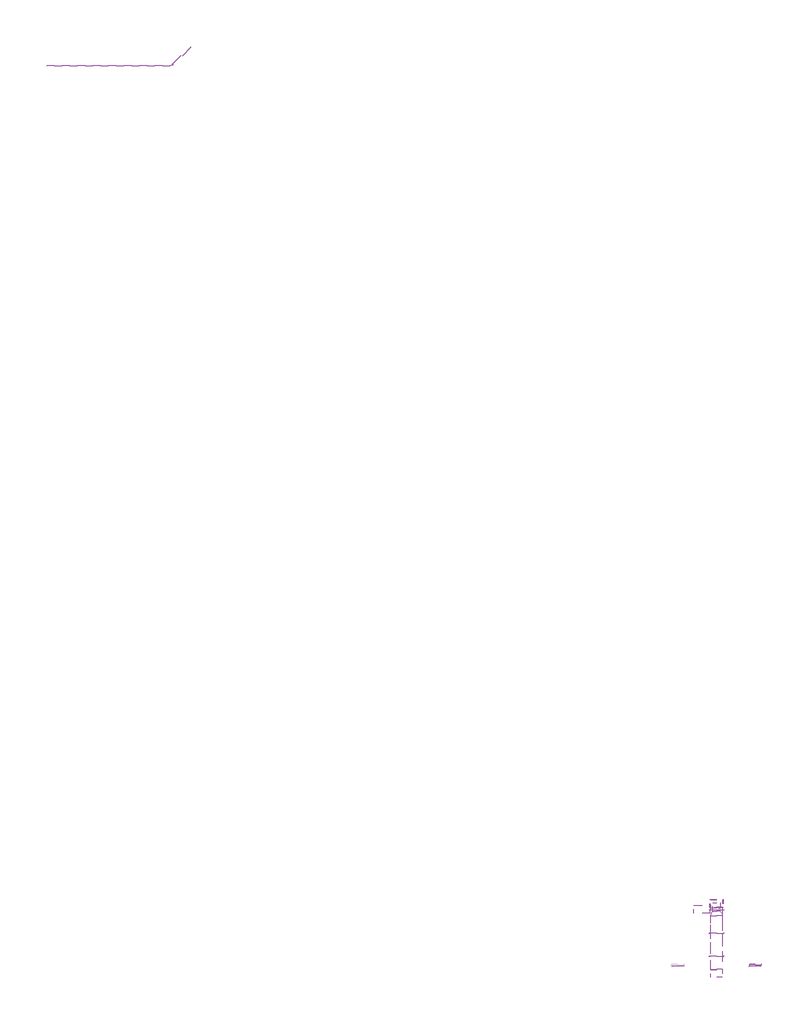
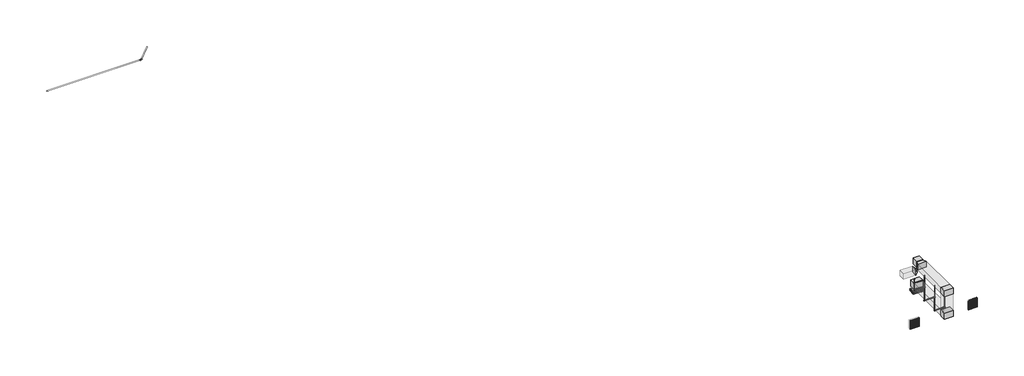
# One storey, part 2 of 2: 51 cable carrier fittings, 8 members, 6 duct fittings, 5 duct segments, 3 dampers, 3 plates, 2 pipe segments, 1 pipe fitting.
"""IFC4 building model written with IfcOpenShell, lengths in millimetres."""

from ifc_helpers import new_model, si_unit, point, frame, frame_2d, origin, place, context, project, spatial, polyline, circle_curve, trimmed, segment, composite_curve, outline, extrude, transform, mapped, element, save
from components import cable_carrier_fitting_5147b0eb, cable_carrier_fitting_557589b3, cable_carrier_fitting_4bd9d3f5, cable_carrier_fitting_428843c3, cable_carrier_fitting_73e02768, damper_1e25a3dc, damper_114d0c41, duct_fitting_aacfcd7f, duct_fitting_35186f20, duct_fitting_47d387f7, duct_fitting_39c6a66e, rectangular_mullion_0fb44773, rectangular_mullion_1x4cm_e9e767ec, rectangular_mullion_1x4cm_b486f322, pipe_fitting_fc837bde, painel_do_sistema_vazio_vazio_02596d65, painel_do_sistema_vazio_vazio_9b44381c

model = new_model("IFC4")

# Units and contexts
model_context = context("Model", 3, world=origin())
ifc_project = project(units=[si_unit("LENGTHUNIT", "METRE", prefix="MILLI")], contexts=[model_context])

# Site, building, storey
site = spatial("IfcSite", under=ifc_project)
building = spatial("IfcBuilding", under=site)
storey = spatial("IfcBuildingStorey", under=building, Name="Térreo", Elevation=52050.0)

# Cable carrier fittings
placement = place(None, origin())
cable_carrier_fitting_shape = cable_carrier_fitting_5147b0eb(model_context)
element("IfcCableCarrierFitting", 1, ObjectType="x. Perfilado38_para suportes : Perfilado38_para suportes", at=placement, inside=storey, context=model_context, shape_type="MappedRepresentation", body=[
    mapped(cable_carrier_fitting_shape, transform((16105.5706235, -20438.3156342, 54915.6939964), x_axis=(-1.0000000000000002, 0.0, 0.0), y_axis=(0.0, -1.0000000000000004, 0.0), z_axis=(0.0, 0.0, 1.0000000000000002))),
])
element("IfcCableCarrierFitting", 2, ObjectType="x. Perfilado38_para suportes : Perfilado38_para suportes", at=placement, inside=storey, context=model_context, shape_type="MappedRepresentation", body=[
    mapped(cable_carrier_fitting_shape, transform((16105.5706235, -21638.3156342, 54915.6939964), x_axis=(-1.0000000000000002, 0.0, 0.0), y_axis=(0.0, -1.0000000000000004, 0.0), z_axis=(0.0, 0.0, 1.0000000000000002))),
])
element("IfcCableCarrierFitting", 3, ObjectType="x. Perfilado38_para suportes : Perfilado38_para suportes", at=placement, inside=storey, context=model_context, shape_type="MappedRepresentation", body=[
    mapped(cable_carrier_fitting_shape, transform((16105.5706235, -22838.3156342, 54915.6939964), x_axis=(-1.0000000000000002, 0.0, 0.0), y_axis=(0.0, -1.0000000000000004, 0.0), z_axis=(0.0, 0.0, 1.0000000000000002))),
])
cable_carrier_fitting_2_shape = cable_carrier_fitting_557589b3(model_context)
element("IfcCableCarrierFitting", 4, ObjectType="x. Porca Sextavada Eletrica : Porca sextavada Eletrica", at=placement, inside=storey, context=model_context, shape_type="MappedRepresentation", body=[
    mapped(cable_carrier_fitting_2_shape, transform((16455.5706235, -20438.3156342, 54874.6939964), x_axis=(0.0, -1.0, 0.0), y_axis=(-1.0, 0.0, 0.0), z_axis=(0.0, 0.0, -1.0))),
])
element("IfcCableCarrierFitting", 5, ObjectType="x. Porca Sextavada Eletrica : Porca sextavada Eletrica", at=placement, inside=storey, context=model_context, shape_type="MappedRepresentation", body=[
    mapped(cable_carrier_fitting_2_shape, transform((15755.5706235, -20438.3156342, 54874.6939964), x_axis=(0.0, -1.0, 0.0), y_axis=(-1.0, 0.0, 0.0), z_axis=(0.0, 0.0, -1.0))),
])
element("IfcCableCarrierFitting", 6, ObjectType="x. Porca Sextavada Eletrica : Porca sextavada Eletrica", at=placement, inside=storey, context=model_context, shape_type="MappedRepresentation", body=[
    mapped(cable_carrier_fitting_2_shape, transform((16455.5706235, -20438.3156342, 54868.1939964), x_axis=(0.0, -1.0, 0.0), y_axis=(-1.0, 0.0, 0.0), z_axis=(0.0, 0.0, -1.0))),
])
element("IfcCableCarrierFitting", 7, ObjectType="x. Porca Sextavada Eletrica : Porca sextavada Eletrica", at=placement, inside=storey, context=model_context, shape_type="MappedRepresentation", body=[
    mapped(cable_carrier_fitting_2_shape, transform((15755.5706235, -20438.3156342, 54868.1939964), x_axis=(0.0, -1.0, 0.0), y_axis=(-1.0, 0.0, 0.0), z_axis=(0.0, 0.0, -1.0))),
])
element("IfcCableCarrierFitting", 8, ObjectType="x. Porca Sextavada Eletrica : Porca sextavada Eletrica", at=placement, inside=storey, context=model_context, shape_type="MappedRepresentation", body=[
    mapped(cable_carrier_fitting_2_shape, transform((16455.5706235, -20438.3156342, 55719.6939964), x_axis=(-1.0, 0.0, 0.0), y_axis=(0.0, 1.0, 0.0), z_axis=(0.0, 0.0, -1.0))),
])
element("IfcCableCarrierFitting", 9, ObjectType="x. Porca Sextavada Eletrica : Porca sextavada Eletrica", at=placement, inside=storey, context=model_context, shape_type="MappedRepresentation", body=[
    mapped(cable_carrier_fitting_2_shape, transform((16455.5706235, -20438.3156342, 55713.1939964), x_axis=(-1.0, 0.0, 0.0), y_axis=(0.0, 1.0, 0.0), z_axis=(0.0, 0.0, -1.0))),
])
element("IfcCableCarrierFitting", 10, ObjectType="x. Porca Sextavada Eletrica : Porca sextavada Eletrica", at=placement, inside=storey, context=model_context, shape_type="MappedRepresentation", body=[
    mapped(cable_carrier_fitting_2_shape, transform((15755.5706235, -20438.3156342, 55719.6939964), x_axis=(-1.0, 0.0, 0.0), y_axis=(0.0, 1.0, 0.0), z_axis=(0.0, 0.0, -1.0))),
])
element("IfcCableCarrierFitting", 11, ObjectType="x. Porca Sextavada Eletrica : Porca sextavada Eletrica", at=placement, inside=storey, context=model_context, shape_type="MappedRepresentation", body=[
    mapped(cable_carrier_fitting_2_shape, transform((15755.5706235, -20438.3156342, 55713.1939964), x_axis=(-1.0, 0.0, 0.0), y_axis=(0.0, 1.0, 0.0), z_axis=(0.0, 0.0, -1.0))),
])
element("IfcCableCarrierFitting", 12, ObjectType="x. Porca Sextavada Eletrica : Porca sextavada Eletrica", at=placement, inside=storey, context=model_context, shape_type="MappedRepresentation", body=[
    mapped(cable_carrier_fitting_2_shape, transform((16455.5706235, -21638.3156342, 54874.6939964), x_axis=(0.0, -1.0, 0.0), y_axis=(-1.0, 0.0, 0.0), z_axis=(0.0, 0.0, -1.0))),
])
element("IfcCableCarrierFitting", 13, ObjectType="x. Porca Sextavada Eletrica : Porca sextavada Eletrica", at=placement, inside=storey, context=model_context, shape_type="MappedRepresentation", body=[
    mapped(cable_carrier_fitting_2_shape, transform((15755.5706235, -21638.3156342, 54874.6939964), x_axis=(0.0, -1.0, 0.0), y_axis=(-1.0, 0.0, 0.0), z_axis=(0.0, 0.0, -1.0))),
])
element("IfcCableCarrierFitting", 14, ObjectType="x. Porca Sextavada Eletrica : Porca sextavada Eletrica", at=placement, inside=storey, context=model_context, shape_type="MappedRepresentation", body=[
    mapped(cable_carrier_fitting_2_shape, transform((16455.5706235, -21638.3156342, 54868.1939964), x_axis=(0.0, -1.0, 0.0), y_axis=(-1.0, 0.0, 0.0), z_axis=(0.0, 0.0, -1.0))),
])
element("IfcCableCarrierFitting", 15, ObjectType="x. Porca Sextavada Eletrica : Porca sextavada Eletrica", at=placement, inside=storey, context=model_context, shape_type="MappedRepresentation", body=[
    mapped(cable_carrier_fitting_2_shape, transform((15755.5706235, -21638.3156342, 54868.1939964), x_axis=(0.0, -1.0, 0.0), y_axis=(-1.0, 0.0, 0.0), z_axis=(0.0, 0.0, -1.0))),
])
element("IfcCableCarrierFitting", 16, ObjectType="x. Porca Sextavada Eletrica : Porca sextavada Eletrica", at=placement, inside=storey, context=model_context, shape_type="MappedRepresentation", body=[
    mapped(cable_carrier_fitting_2_shape, transform((16455.5706235, -21638.3156342, 55719.6939964), x_axis=(-1.0, 0.0, 0.0), y_axis=(0.0, 1.0, 0.0), z_axis=(0.0, 0.0, -1.0))),
])
element("IfcCableCarrierFitting", 17, ObjectType="x. Porca Sextavada Eletrica : Porca sextavada Eletrica", at=placement, inside=storey, context=model_context, shape_type="MappedRepresentation", body=[
    mapped(cable_carrier_fitting_2_shape, transform((16455.5706235, -21638.3156342, 55713.1939964), x_axis=(-1.0, 0.0, 0.0), y_axis=(0.0, 1.0, 0.0), z_axis=(0.0, 0.0, -1.0))),
])
element("IfcCableCarrierFitting", 18, ObjectType="x. Porca Sextavada Eletrica : Porca sextavada Eletrica", at=placement, inside=storey, context=model_context, shape_type="MappedRepresentation", body=[
    mapped(cable_carrier_fitting_2_shape, transform((15755.5706235, -21638.3156342, 55719.6939964), x_axis=(-1.0, 0.0, 0.0), y_axis=(0.0, 1.0, 0.0), z_axis=(0.0, 0.0, -1.0))),
])
element("IfcCableCarrierFitting", 19, ObjectType="x. Porca Sextavada Eletrica : Porca sextavada Eletrica", at=placement, inside=storey, context=model_context, shape_type="MappedRepresentation", body=[
    mapped(cable_carrier_fitting_2_shape, transform((15755.5706235, -21638.3156342, 55713.1939964), x_axis=(-1.0, 0.0, 0.0), y_axis=(0.0, 1.0, 0.0), z_axis=(0.0, 0.0, -1.0))),
])
element("IfcCableCarrierFitting", 20, ObjectType="x. Porca Sextavada Eletrica : Porca sextavada Eletrica", at=placement, inside=storey, context=model_context, shape_type="MappedRepresentation", body=[
    mapped(cable_carrier_fitting_2_shape, transform((16455.5706235, -22838.3156342, 54874.6939964), x_axis=(0.0, -1.0, 0.0), y_axis=(-1.0, 0.0, 0.0), z_axis=(0.0, 0.0, -1.0))),
])
element("IfcCableCarrierFitting", 21, ObjectType="x. Porca Sextavada Eletrica : Porca sextavada Eletrica", at=placement, inside=storey, context=model_context, shape_type="MappedRepresentation", body=[
    mapped(cable_carrier_fitting_2_shape, transform((15755.5706235, -22838.3156342, 54874.6939964), x_axis=(0.0, -1.0, 0.0), y_axis=(-1.0, 0.0, 0.0), z_axis=(0.0, 0.0, -1.0))),
])
element("IfcCableCarrierFitting", 22, ObjectType="x. Porca Sextavada Eletrica : Porca sextavada Eletrica", at=placement, inside=storey, context=model_context, shape_type="MappedRepresentation", body=[
    mapped(cable_carrier_fitting_2_shape, transform((16455.5706235, -22838.3156342, 54868.1939964), x_axis=(0.0, -1.0, 0.0), y_axis=(-1.0, 0.0, 0.0), z_axis=(0.0, 0.0, -1.0))),
])
element("IfcCableCarrierFitting", 23, ObjectType="x. Porca Sextavada Eletrica : Porca sextavada Eletrica", at=placement, inside=storey, context=model_context, shape_type="MappedRepresentation", body=[
    mapped(cable_carrier_fitting_2_shape, transform((15755.5706235, -22838.3156342, 54868.1939964), x_axis=(0.0, -1.0, 0.0), y_axis=(-1.0, 0.0, 0.0), z_axis=(0.0, 0.0, -1.0))),
])
element("IfcCableCarrierFitting", 24, ObjectType="x. Porca Sextavada Eletrica : Porca sextavada Eletrica", at=placement, inside=storey, context=model_context, shape_type="MappedRepresentation", body=[
    mapped(cable_carrier_fitting_2_shape, transform((16455.5706235, -22838.3156342, 55719.6939964), x_axis=(-1.0, 0.0, 0.0), y_axis=(0.0, 1.0, 0.0), z_axis=(0.0, 0.0, -1.0))),
])
element("IfcCableCarrierFitting", 25, ObjectType="x. Porca Sextavada Eletrica : Porca sextavada Eletrica", at=placement, inside=storey, context=model_context, shape_type="MappedRepresentation", body=[
    mapped(cable_carrier_fitting_2_shape, transform((16455.5706235, -22838.3156342, 55713.1939964), x_axis=(-1.0, 0.0, 0.0), y_axis=(0.0, 1.0, 0.0), z_axis=(0.0, 0.0, -1.0))),
])
element("IfcCableCarrierFitting", 26, ObjectType="x. Porca Sextavada Eletrica : Porca sextavada Eletrica", at=placement, inside=storey, context=model_context, shape_type="MappedRepresentation", body=[
    mapped(cable_carrier_fitting_2_shape, transform((15755.5706235, -22838.3156342, 55719.6939964), x_axis=(-1.0, 0.0, 0.0), y_axis=(0.0, 1.0, 0.0), z_axis=(0.0, 0.0, -1.0))),
])
element("IfcCableCarrierFitting", 27, ObjectType="x. Porca Sextavada Eletrica : Porca sextavada Eletrica", at=placement, inside=storey, context=model_context, shape_type="MappedRepresentation", body=[
    mapped(cable_carrier_fitting_2_shape, transform((15755.5706235, -22838.3156342, 55713.1939964), x_axis=(-1.0, 0.0, 0.0), y_axis=(0.0, 1.0, 0.0), z_axis=(0.0, 0.0, -1.0))),
])
cable_carrier_fitting_3_shape = cable_carrier_fitting_4bd9d3f5(model_context)
element("IfcCableCarrierFitting", 28, ObjectType="x. Fixaçoes Eletricas_Chumbador de Expansão : Chumbador de Expansão", at=placement, inside=storey, context=model_context, shape_type="MappedRepresentation", body=[
    mapped(cable_carrier_fitting_3_shape, transform((16455.5706235, -20438.3156342, 55720.6939964), x_axis=(0.0, -1.0, 0.0), y_axis=(-1.0, 0.0, 0.0), z_axis=(0.0, 0.0, -1.0))),
])
element("IfcCableCarrierFitting", 29, ObjectType="x. Fixaçoes Eletricas_Chumbador de Expansão : Chumbador de Expansão", at=placement, inside=storey, context=model_context, shape_type="MappedRepresentation", body=[
    mapped(cable_carrier_fitting_3_shape, transform((15755.5706235, -20438.3156342, 55720.6939964), x_axis=(0.0, -1.0, 0.0), y_axis=(-1.0, 0.0, 0.0), z_axis=(0.0, 0.0, -1.0))),
])
element("IfcCableCarrierFitting", 30, ObjectType="x. Fixaçoes Eletricas_Chumbador de Expansão : Chumbador de Expansão", at=placement, inside=storey, context=model_context, shape_type="MappedRepresentation", body=[
    mapped(cable_carrier_fitting_3_shape, transform((16455.5706235, -21638.3156342, 55720.6939964), x_axis=(0.0, -1.0, 0.0), y_axis=(-1.0, 0.0, 0.0), z_axis=(0.0, 0.0, -1.0))),
])
element("IfcCableCarrierFitting", 31, ObjectType="x. Fixaçoes Eletricas_Chumbador de Expansão : Chumbador de Expansão", at=placement, inside=storey, context=model_context, shape_type="MappedRepresentation", body=[
    mapped(cable_carrier_fitting_3_shape, transform((15755.5706235, -21638.3156342, 55720.6939964), x_axis=(0.0, -1.0, 0.0), y_axis=(-1.0, 0.0, 0.0), z_axis=(0.0, 0.0, -1.0))),
])
element("IfcCableCarrierFitting", 32, ObjectType="x. Fixaçoes Eletricas_Chumbador de Expansão : Chumbador de Expansão", at=placement, inside=storey, context=model_context, shape_type="MappedRepresentation", body=[
    mapped(cable_carrier_fitting_3_shape, transform((16455.5706235, -22838.3156342, 55720.6939964), x_axis=(0.0, -1.0, 0.0), y_axis=(-1.0, 0.0, 0.0), z_axis=(0.0, 0.0, -1.0))),
])
element("IfcCableCarrierFitting", 33, ObjectType="x. Fixaçoes Eletricas_Chumbador de Expansão : Chumbador de Expansão", at=placement, inside=storey, context=model_context, shape_type="MappedRepresentation", body=[
    mapped(cable_carrier_fitting_3_shape, transform((15755.5706235, -22838.3156342, 55720.6939964), x_axis=(0.0, -1.0, 0.0), y_axis=(-1.0, 0.0, 0.0), z_axis=(0.0, 0.0, -1.0))),
])
cable_carrier_fitting_4_shape = cable_carrier_fitting_428843c3(model_context)
element("IfcCableCarrierFitting", 34, ObjectType="x. Tirante para Suportes1 : Tirante para Suportes 2", at=placement, inside=storey, context=model_context, shape_type="MappedRepresentation", body=[
    mapped(cable_carrier_fitting_4_shape, transform((16455.5706235, -20438.3156342, 54855.4546037), x_axis=(-1.0, 0.0, 0.0), y_axis=(0.0, -1.0, 0.0), z_axis=(0.0, 0.0, 1.0))),
])
element("IfcCableCarrierFitting", 35, ObjectType="x. Tirante para Suportes1 : Tirante para Suportes 2", at=placement, inside=storey, context=model_context, shape_type="MappedRepresentation", body=[
    mapped(cable_carrier_fitting_4_shape, transform((15755.5706235, -20438.3156342, 54855.4546037), x_axis=(-1.0, 0.0, 0.0), y_axis=(0.0, -1.0, 0.0), z_axis=(0.0, 0.0, 1.0))),
])
element("IfcCableCarrierFitting", 36, ObjectType="x. Tirante para Suportes1 : Tirante para Suportes 2", at=placement, inside=storey, context=model_context, shape_type="MappedRepresentation", body=[
    mapped(cable_carrier_fitting_4_shape, transform((16455.5706235, -21638.3156342, 54855.4546037), x_axis=(-1.0, 0.0, 0.0), y_axis=(0.0, -1.0, 0.0), z_axis=(0.0, 0.0, 1.0))),
])
element("IfcCableCarrierFitting", 37, ObjectType="x. Tirante para Suportes1 : Tirante para Suportes 2", at=placement, inside=storey, context=model_context, shape_type="MappedRepresentation", body=[
    mapped(cable_carrier_fitting_4_shape, transform((15755.5706235, -21638.3156342, 54855.4546037), x_axis=(-1.0, 0.0, 0.0), y_axis=(0.0, -1.0, 0.0), z_axis=(0.0, 0.0, 1.0))),
])
element("IfcCableCarrierFitting", 38, ObjectType="x. Tirante para Suportes1 : Tirante para Suportes 2", at=placement, inside=storey, context=model_context, shape_type="MappedRepresentation", body=[
    mapped(cable_carrier_fitting_4_shape, transform((16455.5706235, -22838.3156342, 54855.4546037), x_axis=(-1.0, 0.0, 0.0), y_axis=(0.0, -1.0, 0.0), z_axis=(0.0, 0.0, 1.0))),
])
element("IfcCableCarrierFitting", 39, ObjectType="x. Tirante para Suportes1 : Tirante para Suportes 2", at=placement, inside=storey, context=model_context, shape_type="MappedRepresentation", body=[
    mapped(cable_carrier_fitting_4_shape, transform((15755.5706235, -22838.3156342, 54855.4546037), x_axis=(-1.0, 0.0, 0.0), y_axis=(0.0, -1.0, 0.0), z_axis=(0.0, 0.0, 1.0))),
])
cable_carrier_fitting_5_shape = cable_carrier_fitting_73e02768(model_context)
element("IfcCableCarrierFitting", 40, ObjectType="x. Arruela Lisa Galvanizada Eletrica : Arruela lisa galvanizada Eletrica", at=placement, inside=storey, context=model_context, shape_type="MappedRepresentation", body=[
    mapped(cable_carrier_fitting_5_shape, transform((16455.5706235, -20438.3156342, 54875.6939964), x_axis=(1.0, 0.0, 0.0), y_axis=(0.0, -1.0, 0.0), z_axis=(0.0, 0.0, -1.0))),
])
element("IfcCableCarrierFitting", 41, ObjectType="x. Arruela Lisa Galvanizada Eletrica : Arruela lisa galvanizada Eletrica", at=placement, inside=storey, context=model_context, shape_type="MappedRepresentation", body=[
    mapped(cable_carrier_fitting_5_shape, transform((15755.5706235, -20438.3156342, 54875.6939964), x_axis=(1.0, 0.0, 0.0), y_axis=(0.0, -1.0, 0.0), z_axis=(0.0, 0.0, -1.0))),
])
element("IfcCableCarrierFitting", 42, ObjectType="x. Arruela Lisa Galvanizada Eletrica : Arruela lisa galvanizada Eletrica", at=placement, inside=storey, context=model_context, shape_type="MappedRepresentation", body=[
    mapped(cable_carrier_fitting_5_shape, transform((16455.5706235, -20438.3156342, 55720.6939964), x_axis=(0.0, -1.0, 0.0), y_axis=(-1.0, 0.0, 0.0), z_axis=(0.0, 0.0, -1.0))),
])
element("IfcCableCarrierFitting", 43, ObjectType="x. Arruela Lisa Galvanizada Eletrica : Arruela lisa galvanizada Eletrica", at=placement, inside=storey, context=model_context, shape_type="MappedRepresentation", body=[
    mapped(cable_carrier_fitting_5_shape, transform((15755.5706235, -20438.3156342, 55720.6939964), x_axis=(0.0, -1.0, 0.0), y_axis=(-1.0, 0.0, 0.0), z_axis=(0.0, 0.0, -1.0))),
])
element("IfcCableCarrierFitting", 44, ObjectType="x. Arruela Lisa Galvanizada Eletrica : Arruela lisa galvanizada Eletrica", at=placement, inside=storey, context=model_context, shape_type="MappedRepresentation", body=[
    mapped(cable_carrier_fitting_5_shape, transform((16455.5706235, -21638.3156342, 54875.6939964), x_axis=(1.0, 0.0, 0.0), y_axis=(0.0, -1.0, 0.0), z_axis=(0.0, 0.0, -1.0))),
])
element("IfcCableCarrierFitting", 45, ObjectType="x. Arruela Lisa Galvanizada Eletrica : Arruela lisa galvanizada Eletrica", at=placement, inside=storey, context=model_context, shape_type="MappedRepresentation", body=[
    mapped(cable_carrier_fitting_5_shape, transform((15755.5706235, -21638.3156342, 54875.6939964), x_axis=(1.0, 0.0, 0.0), y_axis=(0.0, -1.0, 0.0), z_axis=(0.0, 0.0, -1.0))),
])
element("IfcCableCarrierFitting", 46, ObjectType="x. Arruela Lisa Galvanizada Eletrica : Arruela lisa galvanizada Eletrica", at=placement, inside=storey, context=model_context, shape_type="MappedRepresentation", body=[
    mapped(cable_carrier_fitting_5_shape, transform((16455.5706235, -21638.3156342, 55720.6939964), x_axis=(0.0, -1.0, 0.0), y_axis=(-1.0, 0.0, 0.0), z_axis=(0.0, 0.0, -1.0))),
])
element("IfcCableCarrierFitting", 47, ObjectType="x. Arruela Lisa Galvanizada Eletrica : Arruela lisa galvanizada Eletrica", at=placement, inside=storey, context=model_context, shape_type="MappedRepresentation", body=[
    mapped(cable_carrier_fitting_5_shape, transform((15755.5706235, -21638.3156342, 55720.6939964), x_axis=(0.0, -1.0, 0.0), y_axis=(-1.0, 0.0, 0.0), z_axis=(0.0, 0.0, -1.0))),
])
element("IfcCableCarrierFitting", 48, ObjectType="x. Arruela Lisa Galvanizada Eletrica : Arruela lisa galvanizada Eletrica", at=placement, inside=storey, context=model_context, shape_type="MappedRepresentation", body=[
    mapped(cable_carrier_fitting_5_shape, transform((16455.5706235, -22838.3156342, 54875.6939964), x_axis=(1.0, 0.0, 0.0), y_axis=(0.0, -1.0, 0.0), z_axis=(0.0, 0.0, -1.0))),
])
element("IfcCableCarrierFitting", 49, ObjectType="x. Arruela Lisa Galvanizada Eletrica : Arruela lisa galvanizada Eletrica", at=placement, inside=storey, context=model_context, shape_type="MappedRepresentation", body=[
    mapped(cable_carrier_fitting_5_shape, transform((15755.5706235, -22838.3156342, 54875.6939964), x_axis=(1.0, 0.0, 0.0), y_axis=(0.0, -1.0, 0.0), z_axis=(0.0, 0.0, -1.0))),
])
element("IfcCableCarrierFitting", 50, ObjectType="x. Arruela Lisa Galvanizada Eletrica : Arruela lisa galvanizada Eletrica", at=placement, inside=storey, context=model_context, shape_type="MappedRepresentation", body=[
    mapped(cable_carrier_fitting_5_shape, transform((16455.5706235, -22838.3156342, 55720.6939964), x_axis=(0.0, -1.0, 0.0), y_axis=(-1.0, 0.0, 0.0), z_axis=(0.0, 0.0, -1.0))),
])
element("IfcCableCarrierFitting", 51, ObjectType="x. Arruela Lisa Galvanizada Eletrica : Arruela lisa galvanizada Eletrica", at=placement, inside=storey, context=model_context, shape_type="MappedRepresentation", body=[
    mapped(cable_carrier_fitting_5_shape, transform((15755.5706235, -22838.3156342, 55720.6939964), x_axis=(0.0, -1.0, 0.0), y_axis=(-1.0, 0.0, 0.0), z_axis=(0.0, 0.0, -1.0))),
])

# Dampers
damper_shape = damper_1e25a3dc(model_context)
element("IfcDamper", 52, ObjectType="GrelhaDeInsuflamento_Quadrada1 : Veneziana- Ar Exterior", at=placement, inside=storey, context=model_context, shape_type="MappedRepresentation", body=[
    mapped(damper_shape, transform((14093.9501612, -23358.1176009, 54848.1953066), x_axis=(1.0, 0.0, 0.0), y_axis=(0.0, 1.0, 0.0), z_axis=(0.0, 0.0, 1.0))),
])
element("IfcDamper", 53, ObjectType="GrelhaDeInsuflamento_Quadrada1 : Veneziana- Ar Exterior", at=placement, inside=storey, context=model_context, shape_type="MappedRepresentation", body=[
    mapped(damper_shape, transform((18093.9501612, -23358.1176009, 54848.1953066), x_axis=(1.0, 0.0, 0.0), y_axis=(0.0, 1.0, 0.0), z_axis=(0.0, 0.0, 1.0))),
])
damper_2_shape = damper_114d0c41(model_context)
element("IfcDamper", 54, ObjectType="00299-Ruskin-090130-Ver10-CD82HT : Damper de Regulagem para Duto", at=placement, inside=storey, context=model_context, shape_type="MappedRepresentation", body=[
    mapped(damper_2_shape, transform((17455.9163375, -20097.2352849, 53803.7058949), x_axis=(0.0, -1.0, 0.0), y_axis=(1.0, 0.0, 0.0), z_axis=(0.0, 0.0, 1.0))),
])

# Duct fittings
duct_fitting_shape = duct_fitting_aacfcd7f(model_context)
element("IfcDuctFitting", 55, ObjectType="M_T retangular : Padrão", at=placement, inside=storey, context=model_context, shape_type="MappedRepresentation", body=[
    mapped(duct_fitting_shape, transform((16105.5706235, -20098.4852849, 55113.0), x_axis=(0.0, 0.0, -1.0), y_axis=(0.0, 1.0, 0.0), z_axis=(1.0, 0.0, 0.0))),
])
element("IfcDuctFitting", 56, ObjectType="M_T retangular : Padrão", at=placement, inside=storey, context=model_context, shape_type="MappedRepresentation", body=[
    mapped(duct_fitting_shape, transform((16105.5706235, -23733.2345996, 55113.0), x_axis=(0.0, 0.0, 1.0), y_axis=(0.0, -1.0, 0.0), z_axis=(1.0, 0.0, 0.0))),
])
element("IfcDuctFitting", 57, ObjectType="M_T retangular : Padrão", at=placement, inside=storey, context=model_context, shape_type="MappedRepresentation", body=[
    mapped(duct_fitting_shape, transform((16105.5706235, -23733.2345996, 56756.6571847), x_axis=(0.0, 0.0, -1.0), y_axis=(0.0, -1.0, 0.0), z_axis=(-1.0, 0.0, 0.0))),
])
duct_fitting_2_shape = duct_fitting_35186f20(model_context)
element("IfcDuctFitting", 58, ObjectType="M_T retangular : Padrão", at=placement, inside=storey, context=model_context, shape_type="MappedRepresentation", body=[
    mapped(duct_fitting_2_shape, transform((16105.5706235, -20261.2841211, 56756.6571847), x_axis=(0.0, 0.0, -1.0), y_axis=(0.0, 1.0, 0.0), z_axis=(1.0, 0.0, 0.0))),
])
duct_fitting_3_shape = duct_fitting_47d387f7(model_context)
element("IfcDuctFitting", 59, ObjectType="M_Transição retangular - Ângulo : 45 Graus", at=placement, inside=storey, context=model_context, shape_type="MappedRepresentation", body=[
    mapped(duct_fitting_3_shape, transform((16105.5706235, -20486.2841211, 56756.6571847), x_axis=(0.0, -1.0, 0.0), y_axis=(1.0, 0.0, 0.0), z_axis=(0.0, 0.0, 1.0))),
])
duct_fitting_4_shape = duct_fitting_39c6a66e(model_context)
element("IfcDuctFitting", 60, ObjectType="M_Transição retangular para oval - Ângulo : 45 Graus", at=placement, inside=storey, context=model_context, shape_type="MappedRepresentation", body=[
    mapped(duct_fitting_4_shape, transform((15771.4665471, -20399.2841211, 56297.0), x_axis=(1.0, 0.0, 0.0), y_axis=(0.0, 1.0, 0.0), z_axis=(0.0, 0.0, 1.0))),
])

# Duct segments
element("IfcDuctSegment", 61, ObjectType="Raios cotovelos / tês", at=placement, inside=storey, context=model_context, shape_type="SweptSolid", body=[
    extrude(outline(polyline([(16405.5706235, -20298.4852849), (15805.5706235, -20298.4852849), (15805.5706235, -19898.4852849), (16405.5706235, -19898.4852849), (16405.5706235, -20298.4852849)])), frame((0.0, 0.0, 54500.0), z_axis=(0.0, 0.0, 1.0), x_axis=(1.0, 0.0, 0.0)), (0.0, 0.0, 1.0), 388.0),
])
element("IfcDuctSegment", 62, ObjectType="Raios cotovelos / tês", at=placement, inside=storey, context=model_context, shape_type="SweptSolid", body=[
    extrude(outline(polyline([(15805.5706235, -20323.4852849), (16405.5706235, -20323.4852849), (16405.5706235, -23508.2345996), (15805.5706235, -23508.2345996), (15805.5706235, -20323.4852849)])), frame((0.0, 0.0, 54913.0), z_axis=(0.0, 0.0, 1.0), x_axis=(1.0, 0.0, 0.0)), (0.0, 0.0, 1.0), 400.0),
])
element("IfcDuctSegment", 63, ObjectType="Raios cotovelos / tês", at=placement, inside=storey, context=model_context, shape_type="SweptSolid", body=[
    extrude(outline(polyline([(16405.5706235, -23933.2345996), (15805.5706235, -23933.2345996), (15805.5706235, -23533.2345996), (16405.5706235, -23533.2345996), (16405.5706235, -23933.2345996)])), frame((0.0, 0.0, 55338.0), z_axis=(0.0, 0.0, 1.0), x_axis=(1.0, 0.0, 0.0)), (0.0, 0.0, 1.0), 1193.6571847),
])
element("IfcDuctSegment", 64, ObjectType="Raios cotovelos / tês", at=placement, inside=storey, context=model_context, shape_type="SweptSolid", body=[
    extrude(outline(polyline([(16405.5706235, -23508.2345996), (15805.5706235, -23508.2345996), (15805.5706235, -20727.7054773), (16405.5706235, -20727.7054773), (16405.5706235, -23508.2345996)])), frame((0.0, 0.0, 56556.6571847), z_axis=(0.0, 0.0, 1.0), x_axis=(1.0, 0.0, 0.0)), (0.0, 0.0, 1.0), 400.0),
])
element("IfcDuctSegment", 65, ObjectType="Raios cotovelos / tês", at=placement, inside=storey, context=model_context, shape_type="SweptSolid", body=[
    extrude(outline(polyline([(15771.4665471, -20199.2841211), (15771.4665471, -20599.2841211), (14930.4780834, -20599.2841211), (14930.4780834, -20199.2841211), (15771.4665471, -20199.2841211)])), frame((0.0, 0.0, 56097.0), z_axis=(0.0, 0.0, 1.0), x_axis=(1.0, 0.0, 0.0)), (0.0, 0.0, 1.0), 400.0),
])

# Members
rectangular_mullion_shape = rectangular_mullion_0fb44773(model_context)
element("IfcMember", 66, ObjectType="Rectangular Mullion : 1x4cm 45°", at=placement, inside=storey, context=model_context, shape_type="MappedRepresentation", body=[
    mapped(rectangular_mullion_shape, transform((18408.0706235, -23278.1176009, 54916.7145386), x_axis=(0.0, 0.0, 1.0), y_axis=(0.0, -1.0, 0.0), z_axis=(1.0, 0.0, 0.0))),
])
element("IfcMember", 67, ObjectType="Rectangular Mullion : 1x4cm 45°", at=placement, inside=storey, context=model_context, shape_type="MappedRepresentation", body=[
    mapped(rectangular_mullion_shape, transform((18408.0706235, -23278.1176009, 54970.7274385), x_axis=(0.0, 0.0, 1.0), y_axis=(0.0, -1.0, 0.0), z_axis=(1.0, 0.0, 0.0))),
])
element("IfcMember", 68, ObjectType="Rectangular Mullion : 1x4cm 45°", at=placement, inside=storey, context=model_context, shape_type="MappedRepresentation", body=[
    mapped(rectangular_mullion_shape, transform((18408.0706235, -23278.1176009, 55024.7403385), x_axis=(0.0, 0.0, 1.0), y_axis=(0.0, -1.0, 0.0), z_axis=(1.0, 0.0, 0.0))),
])
element("IfcMember", 69, ObjectType="Rectangular Mullion : 1x4cm 45°", at=placement, inside=storey, context=model_context, shape_type="MappedRepresentation", body=[
    mapped(rectangular_mullion_shape, transform((18408.0706235, -23278.1176009, 55078.7532385), x_axis=(0.0, 0.0, 1.0), y_axis=(0.0, -1.0, 0.0), z_axis=(1.0, 0.0, 0.0))),
])
rectangular_mullion_1x4cm_shape = rectangular_mullion_1x4cm_e9e767ec(model_context)
element("IfcMember", 70, ObjectType="Rectangular Mullion : 1x4cm", at=placement, inside=storey, context=model_context, shape_type="MappedRepresentation", body=[
    mapped(rectangular_mullion_1x4cm_shape, transform((18418.0706235, -23278.1176009, 54916.7145386), x_axis=(1.0, 0.0, 0.0), y_axis=(0.0, -1.0, 0.0), z_axis=(0.0, 0.0, -1.0))),
])
element("IfcMember", 71, ObjectType="Rectangular Mullion : 1x4cm", at=placement, inside=storey, context=model_context, shape_type="MappedRepresentation", body=[
    mapped(rectangular_mullion_1x4cm_shape, transform((18418.0706235, -23278.1176009, 54970.7274385), x_axis=(1.0, 0.0, 0.0), y_axis=(0.0, -1.0, 0.0), z_axis=(0.0, 0.0, -1.0))),
])
element("IfcMember", 72, ObjectType="Rectangular Mullion : 1x4cm", at=placement, inside=storey, context=model_context, shape_type="MappedRepresentation", body=[
    mapped(rectangular_mullion_1x4cm_shape, transform((18418.0706235, -23278.1176009, 55024.7403385), x_axis=(1.0, 0.0, 0.0), y_axis=(0.0, -1.0, 0.0), z_axis=(0.0, 0.0, -1.0))),
])
rectangular_mullion_1x4cm_2_shape = rectangular_mullion_1x4cm_b486f322(model_context)
element("IfcMember", 73, ObjectType="Rectangular Mullion : 1x4cm", at=placement, inside=storey, context=model_context, shape_type="MappedRepresentation", body=[
    mapped(rectangular_mullion_1x4cm_2_shape, transform((18418.0706235, -23278.1176009, 55078.7532385), x_axis=(1.0, 0.0, 0.0), y_axis=(0.0, -1.0, 0.0), z_axis=(0.0, 0.0, -1.0))),
])

# Pipe fitting
pipe_fitting_shape = pipe_fitting_fc837bde(model_context)
element("IfcPipeFitting", 74, ObjectType="Curva Rede Frigorígena : Curva Rede Frigorígena", at=placement, inside=storey, context=model_context, shape_type="MappedRepresentation", body=[
    mapped(pipe_fitting_shape, transform((-12158.3260284, 23367.9786328, 54900.0753061), x_axis=(0.9999999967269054, 8.090852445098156e-05, 0.0), y_axis=(-8.090852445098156e-05, 0.9999999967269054, 0.0), z_axis=(0.0, 0.0, 1.0))),
])

# Pipe segments
element("IfcPipeSegment", 75, ObjectType="Rede Frigorígena 36000 BTU/h (Ø3/8''x5/8''+1xPP#4x2,5)", at=placement, inside=storey, context=model_context, shape_type="SweptSolid", body=[
    extrude(outline(composite_curve([segment(trimmed(circle_curve(frame_2d((0.0, -30.1625)), 30.1625), [point((-30.1625, -30.1625))], [point((0.0, 0.0))], False, "CARTESIAN"), True, "CONTINUOUS"), segment(trimmed(circle_curve(frame_2d((0.0, -30.1625)), 30.1625), [point((0.0, 0.0))], [point((30.1625, -30.1625))], False, "CARTESIAN"), True, "CONTINUOUS"), segment(trimmed(circle_curve(frame_2d((0.0, -30.1625)), 30.1625), [point((30.1625, -30.1625))], [point((0.0, -60.325))], False, "CARTESIAN"), True, "CONTINUOUS"), segment(trimmed(circle_curve(frame_2d((0.0, -30.1625)), 30.1625), [point((0.0, -60.325))], [point((-30.1625, -30.1625))], False, "CARTESIAN"), True, "CONTINUOUS")], self_intersect=False)), frame((-12104.4444917, 23421.8601695, 54869.9128061), z_axis=(0.7071067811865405, 0.7071067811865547, 0.0), x_axis=(0.7071067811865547, -0.7071067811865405, 0.0)), (0.0, 0.0, 1.0), 1294.4400817),
])
element("IfcPipeSegment", 76, ObjectType="Rede Frigorígena 36000 BTU/h (Ø3/8''x5/8''+1xPP#4x2,5)", at=placement, inside=storey, context=model_context, shape_type="SweptSolid", body=[
    extrude(outline(composite_curve([segment(trimmed(circle_curve(frame_2d((0.0, -30.1625)), 30.1625), [point((-30.1625, -30.1625))], [point((0.0, 0.0))], False, "CARTESIAN"), True, "CONTINUOUS"), segment(trimmed(circle_curve(frame_2d((0.0, -30.1625)), 30.1625), [point((0.0, 0.0))], [point((30.1625, -30.1625))], False, "CARTESIAN"), True, "CONTINUOUS"), segment(trimmed(circle_curve(frame_2d((0.0, -30.1625)), 30.1625), [point((30.1625, -30.1625))], [point((0.0, -60.325))], False, "CARTESIAN"), True, "CONTINUOUS"), segment(trimmed(circle_curve(frame_2d((0.0, -30.1625)), 30.1625), [point((0.0, -60.325))], [point((-30.1625, -30.1625))], False, "CARTESIAN"), True, "CONTINUOUS")], self_intersect=False)), frame((-18655.8498752, 23367.4529277, 54869.9128061), z_axis=(0.9999999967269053, 8.090852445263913e-05, 0.0), x_axis=(8.090852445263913e-05, -0.9999999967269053, 0.0)), (0.0, 0.0, 1.0), 6421.3238681),
])

# Plates
painel_do_sistema_vazio_vazio_shape = painel_do_sistema_vazio_vazio_02596d65(model_context)
element("IfcPlate", 77, ObjectType="Painel do sistema vazio : Vazio", at=placement, inside=storey, context=model_context, shape_type="MappedRepresentation", body=[
    mapped(painel_do_sistema_vazio_vazio_shape, transform((18112.4567682, -23278.1176009, 54977.7985063), x_axis=(1.0, 0.0, 0.0), y_axis=(0.0, 1.0, 0.0), z_axis=(0.0, 0.0, 1.0))),
])
element("IfcPlate", 78, ObjectType="Painel do sistema vazio : Vazio", at=placement, inside=storey, context=model_context, shape_type="MappedRepresentation", body=[
    mapped(painel_do_sistema_vazio_vazio_shape, transform((18112.4567682, -23278.1176009, 55031.8114063), x_axis=(1.0, 0.0, 0.0), y_axis=(0.0, 1.0, 0.0), z_axis=(0.0, 0.0, 1.0))),
])
painel_do_sistema_vazio_vazio_2_shape = painel_do_sistema_vazio_vazio_9b44381c(model_context)
element("IfcPlate", 79, ObjectType="Painel do sistema vazio : Vazio", at=placement, inside=storey, context=model_context, shape_type="MappedRepresentation", body=[
    mapped(painel_do_sistema_vazio_vazio_2_shape, transform((18112.4567682, -23278.1176009, 55085.8243063), x_axis=(1.0, 0.0, 0.0), y_axis=(0.0, 1.0, 0.0), z_axis=(0.0, 0.0, 1.0))),
])

save(model, "model.ifc")
